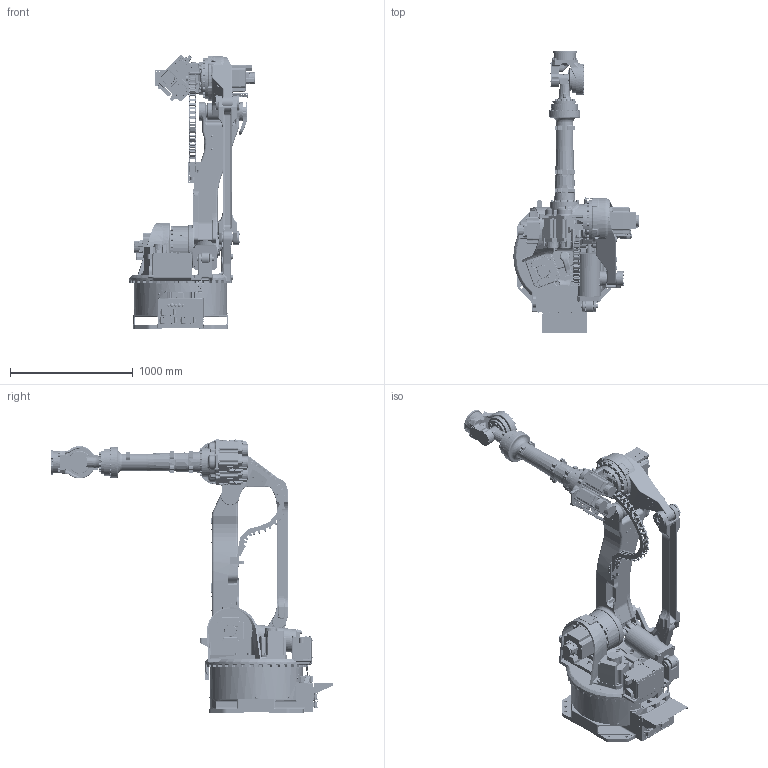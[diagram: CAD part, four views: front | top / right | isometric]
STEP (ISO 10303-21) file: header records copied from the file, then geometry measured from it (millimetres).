
FILE_DESCRIPTION(('CATIA V5 STEP Exchange','CAx-IF Rec.Pracs.--- Composite Materials ---3.4---2017-06-13'),'2;1');
FILE_NAME('D:\モデリング\☆☆☆STEP\ZX\22.04.04_ZX_ASSY_軽量化\Part\Part\step\ZX300S\ZX300S-B001.stp','2022-05-12T08:53:49+00:00',('none'),('none'),'CATIA Version 5-6 Release 2020 SP4 HF11','CATIA V5 STEP AP203 v2','none');
FILE_SCHEMA(('CONFIG_CONTROL_DESIGN'));
Products named in the file (1): ZX300S-B001
Assembly tree (12 placements, depth 2):
  ZX300S-B001
    #57
    #47572
    #155221
    #201814
    #273489
    #283872
    #295245
    #297359
    #329002
    #340430
    #343601
    #344331
Bounding box: 1017.99 x 2293 x 2228.9 mm (x, y, z)
Volume: 363207628.6 mm3; surface area: 14973830.8 mm2
Topology: 19 solids, 20 shells, 10449 faces, 27472 edges, 17366 vertices
Faces by surface type: cylinder 4174, plane 3914, bspline 858, torus 784, cone 295, sphere 205, extrusion 114, revolution 105
Entity records: 381928 total; most frequent: CARTESIAN_POINT 147236, ORIENTED_EDGE 54160, DIRECTION 37107, EDGE_CURVE 27080, VERTEX_POINT 17359, AXIS2_PLACEMENT_3D 16627, VECTOR 13267, LINE 13153
